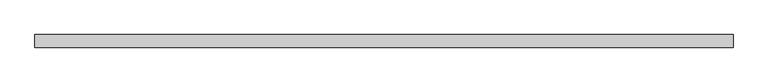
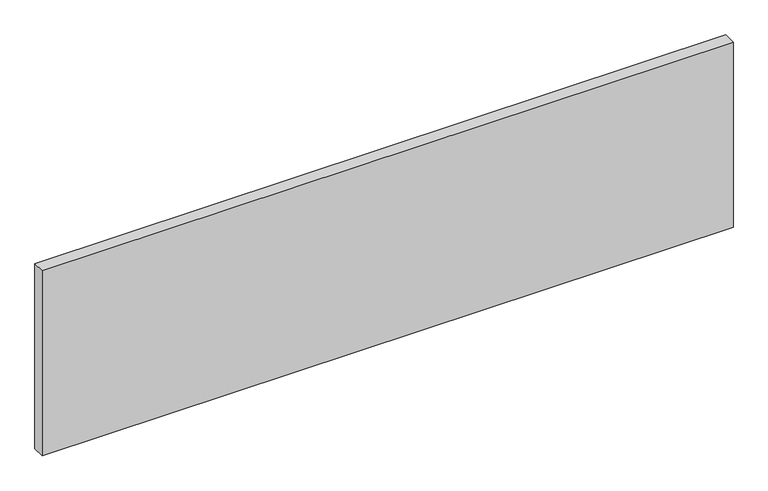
"""IFC4 building model written with IfcOpenShell, lengths in millimetres: proxy geometry."""

from ifc_helpers import new_model, si_unit, origin, origin_with_axes, place, context, project, spatial, polyline, outline, extrude, source, transform, mapped, element, save


def generic_models_cd6907ec(model_context):
    return source(origin(), model_context, "Body", "SweptSolid", [
        extrude(outline(polyline([(-107308.1674613, -55265.0173441), (-96248.167461, -55265.0173441), (-96248.167461, -55465.0173441), (-107308.1674613, -55465.0173441), (-107308.1674613, -55265.0173441)])), origin_with_axes(), (0.0, 0.0, 1.0), 3130.0),
    ])


if __name__ == "__main__":
    model = new_model("IFC4")
    model_context = context("Model", 3, world=origin())
    ifc_project = project(units=[si_unit("LENGTHUNIT", "METRE", prefix="MILLI")], contexts=[model_context])
    site = spatial("IfcSite", under=ifc_project)
    building = spatial("IfcBuilding", under=site)
    placement = place(None, origin())
    generic_models_shape = generic_models_cd6907ec(model_context)
    element("IfcBuildingElementProxy", 1, Name="Generic Models", at=placement, inside=building, context=model_context, shape_type="MappedRepresentation", body=[
        mapped(generic_models_shape, transform((0.0, 0.0, 0.0), x_axis=(1.0, 0.0, 0.0), y_axis=(0.0, 1.0, 0.0), z_axis=(0.0, 0.0, 1.0))),
    ])
    save(model, "model.ifc")
